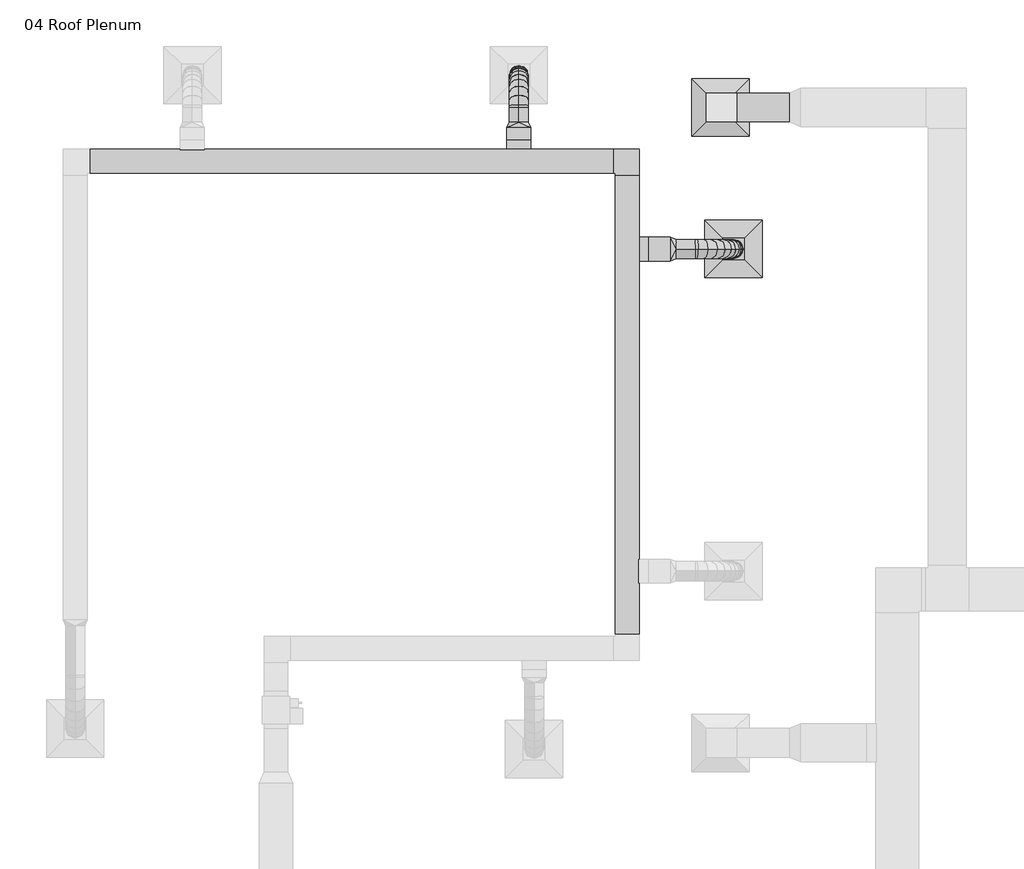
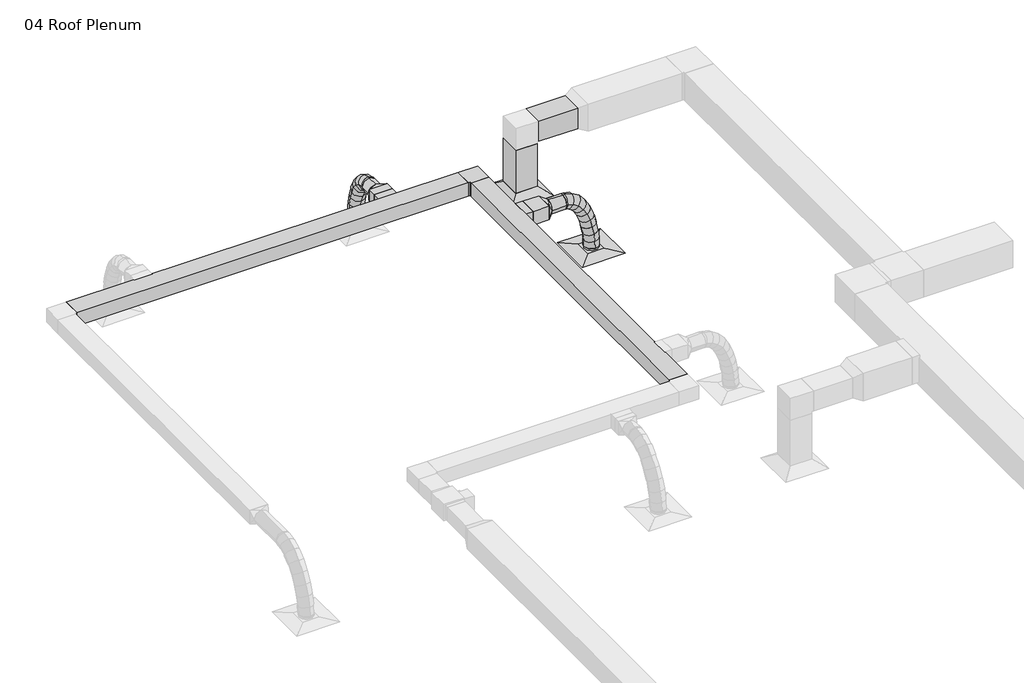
# One storey, part 6 of 9: 10 duct segments, 5 duct fittings, 2 air terminals.
"""IFC4 building model written with IfcOpenShell, lengths in millimetres."""

from ifc_helpers import new_model, si_unit, point, frame, frame_2d, origin, place, context, project, spatial, polyline, circle_curve, ellipse_curve, trimmed, segment, composite_curve, outline, extrude, transform, mapped, element, save
from ifc_brep_helpers import plane_surface, cylinder_surface, advanced_brep
from components import return_diffuser_d30_returndiffuser_24x24_12x12_connection_ff543d60, supply_diffuser_rectangular_face_round_neck_d30_6390248a, rectangular_elbow_mitered_standard_f09b78ec, rectangular_takeoff_standard_c54ab2d1, rectangular_to_round_transition_angle_45_degree_e9430680

model = new_model("IFC4")

# Units and contexts
model_context = context("Model", 3, world=origin())
ifc_project = project(units=[si_unit("LENGTHUNIT", "METRE", prefix="MILLI")], contexts=[model_context])

# Site, building, storey
site = spatial("IfcSite", under=ifc_project)
building = spatial("IfcBuilding", under=site)
storey = spatial("IfcBuildingStorey", under=building, Name="04 Roof Plenum", Elevation=12192.0)

# Air terminals
placement = place(None, origin())
return_diffuser_d30_returndiffuser_24x24_12x12_connection_shape = return_diffuser_d30_returndiffuser_24x24_12x12_connection_ff543d60(model_context)
element("IfcAirTerminal", 1, ObjectType="Return Diffuser : D30_ReturnDiffuser_24x24 12x12 Connection", at=placement, inside=storey, context=model_context, shape_type="MappedRepresentation", body=[
    mapped(return_diffuser_d30_returndiffuser_24x24_12x12_connection_shape, transform((-9849.7375216, 11685.6809317, 12192.0), x_axis=(1.0, 0.0, 0.0), y_axis=(0.0, 1.0, 0.0), z_axis=(0.0, 0.0, 1.0))),
])
supply_diffuser_rectangular_face_round_neck_d30_shape = supply_diffuser_rectangular_face_round_neck_d30_6390248a(model_context)
element("IfcAirTerminal", 2, ObjectType="Supply Diffuser - Rectangular Face Round Neck : D30_SupplyDiffuser_24x24 8 Neck", at=placement, inside=storey, context=model_context, shape_type="MappedRepresentation", body=[
    mapped(supply_diffuser_rectangular_face_round_neck_d30_shape, transform((-9710.4163107, 10179.6737087, 12192.0), x_axis=(1.0, 0.0, 0.0), y_axis=(0.0, 1.0, 0.0), z_axis=(0.0, 0.0, 1.0))),
])

# Duct fittings
rectangular_elbow_mitered_standard_shape = rectangular_elbow_mitered_standard_f09b78ec(model_context)
element("IfcDuctFitting", 3, ObjectType="Rectangular Elbow - Mitered : Standard", at=placement, inside=storey, context=model_context, shape_type="MappedRepresentation", body=[
    mapped(rectangular_elbow_mitered_standard_shape, transform((-10837.7723705, 11113.0921675, 13030.2), x_axis=(0.0, 1.0, 0.0), y_axis=(-1.0, 0.0, 0.0), z_axis=(0.0, 0.0, 1.0))),
])
rectangular_takeoff_standard_shape = rectangular_takeoff_standard_c54ab2d1(model_context)
element("IfcDuctFitting", 4, ObjectType="Rectangular Takeoff : Standard", at=placement, inside=storey, context=model_context, shape_type="MappedRepresentation", body=[
    mapped(rectangular_takeoff_standard_shape, transform((-10710.7723705, 10179.6737087, 13030.2), x_axis=(1.0, 0.0, 0.0), y_axis=(0.0, -1.0, 0.0), z_axis=(0.0, 0.0, -1.0))),
])
element("IfcDuctFitting", 5, ObjectType="Rectangular Takeoff : Standard", at=placement, inside=storey, context=model_context, shape_type="MappedRepresentation", body=[
    mapped(rectangular_takeoff_standard_shape, transform((-11992.0077013, 11240.0921675, 13030.2), x_axis=(0.0, 1.0, 0.0), y_axis=(1.0, 0.0, 0.0), z_axis=(0.0, 0.0, -1.0))),
])
rectangular_to_round_transition_angle_45_degree_shape = rectangular_to_round_transition_angle_45_degree_e9430680(model_context)
element("IfcDuctFitting", 6, ObjectType="Rectangular to Round Transition - Angle : 45 Degree", at=placement, inside=storey, context=model_context, shape_type="MappedRepresentation", body=[
    mapped(rectangular_to_round_transition_angle_45_degree_shape, transform((-10380.5723705, 10179.6737087, 13030.2), x_axis=(1.0, 0.0, 0.0), y_axis=(0.0, 1.0, 0.0), z_axis=(0.0, 0.0, 1.0))),
])
element("IfcDuctFitting", 7, ObjectType="Rectangular to Round Transition - Angle : 45 Degree", at=placement, inside=storey, context=model_context, shape_type="MappedRepresentation", body=[
    mapped(rectangular_to_round_transition_angle_45_degree_shape, transform((-11992.0077013, 11468.6921675, 13030.2), x_axis=(0.0, 1.0, 0.0), y_axis=(-1.0, 0.0, 0.0), z_axis=(0.0, 0.0, 1.0))),
])

# Duct segments
element("IfcDuctSegment", 8, ObjectType="Flex - Round", at=placement, inside=storey, context=model_context, shape_type="AdvancedBrep", body=[
    advanced_brep(
    [(-10116.051346, 10281.2737087, 13030.2), (-10116.051346, 10179.6737087, 12928.6), (-10116.051346, 10078.0737087, 13030.2), (-10116.051346, 10179.6737087, 13131.8), (-10097.2613499, 10281.2737087, 13030.2), (-10109.1301568, 10179.6737087, 12928.6), (-10097.2613499, 10078.0737087, 13030.2), (-10085.392543, 10179.6737087, 13131.8), (-9710.4163107, 10281.2737087, 12245.975), (-9608.8163107, 10179.6737087, 12245.975), (-9710.4163107, 10078.0737087, 12245.975), (-9812.0163107, 10179.6737087, 12245.975), (-10024.6277675, 10281.2737087, 13012.9952525), (-10063.7514042, 10179.6737087, 12917.8511156), (-10024.6277675, 10078.0737087, 13012.9952525), (-9985.5041308, 10179.6737087, 13108.1393895), (-9946.1684467, 10281.2737087, 12965.1424888), (-10011.5801659, 10179.6737087, 12886.0315955), (-9946.1684467, 10078.0737087, 12965.1424888), (-9880.7567276, 10179.6737087, 13044.2533822), (-9880.0836682, 10281.2737087, 12892.2839269), (-9962.3441922, 10179.6737087, 12831.7488648), (-9880.0836682, 10078.0737087, 12892.2839269), (-9797.8231442, 10179.6737087, 12952.818989), (-9825.7837163, 10281.2737087, 12800.0617847), (-9917.0975886, 10179.6737087, 12754.9027798), (-9825.7837163, 10078.0737087, 12800.0617847), (-9734.469844, 10179.6737087, 12845.2207896), (-9782.6788754, 10281.2737087, 12694.1182803), (-9878.8716624, 10179.6737087, 12660.9507203), (-9782.6788754, 10078.0737087, 12694.1182803), (-9686.4860884, 10179.6737087, 12727.2858402), (-9750.17943, 10281.2737087, 12580.0956316), (-9849.0995098, 10179.6737087, 12556.4966397), (-9750.17943, 10078.0737087, 12580.0956316), (-9651.2593501, 10179.6737087, 12603.6946235), (-9727.6956644, 10281.2737087, 12463.6360566), (-9828.1850451, 10179.6737087, 12448.165601), (-9727.6956644, 10078.0737087, 12463.6360566), (-9627.2062838, 10179.6737087, 12479.1065123), (-9714.6378632, 10281.2737087, 12350.3817734), (-9815.9925683, 10179.6737087, 12342.4165399), (-9714.6378632, 10078.0737087, 12350.3817734), (-9613.2831581, 10179.6737087, 12358.347007), (-9710.4163107, 10281.2737087, 12250.0797103), (-9812.0163107, 10179.6737087, 12247.942566), (-9710.4163107, 10078.0737087, 12250.0797103), (-9608.8163107, 10179.6737087, 12252.2168545)],
    [
        (0, 1, circle_curve(frame((-10116.051346, 10179.6737087, 13030.2), z_axis=(-1.0, 0.0, 0.0), x_axis=(0.0, 1.0, 0.0)), 101.6)),
        (1, 2, circle_curve(frame((-10116.051346, 10179.6737087, 13030.2), z_axis=(-1.0, 0.0, 0.0), x_axis=(0.0, 1.0, 0.0)), 101.6)),
        (2, 3, circle_curve(frame((-10116.051346, 10179.6737087, 13030.2), z_axis=(-1.0, 0.0, 0.0), x_axis=(0.0, 1.0, 0.0)), 101.6)),
        (3, 0, circle_curve(frame((-10116.051346, 10179.6737087, 13030.2), z_axis=(-1.0, 0.0, 0.0), x_axis=(0.0, 1.0, 0.0)), 101.6)),
        (0, 4),
        (4, 5, ellipse_curve(frame((-10097.2613499, 10179.6737087, 13030.2), z_axis=(-0.993245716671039, 0.0, 0.11602993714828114), x_axis=(-0.11602993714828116, 0.0, -0.9932457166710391)), 102.2909017, 101.6)),
        (5, 1),
        (5, 6, ellipse_curve(frame((-10097.2613499, 10179.6737087, 13030.2), z_axis=(-0.993245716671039, 0.0, 0.11602993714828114), x_axis=(-0.11602993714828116, 0.0, -0.9932457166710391)), 102.2909017, 101.6)),
        (6, 2),
        (6, 7, ellipse_curve(frame((-10097.2613499, 10179.6737087, 13030.2), z_axis=(-0.993245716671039, 0.0, 0.11602993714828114), x_axis=(-0.11602993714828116, 0.0, -0.9932457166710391)), 102.2909017, 101.6)),
        (7, 3),
        (7, 4, ellipse_curve(frame((-10097.2613499, 10179.6737087, 13030.2), z_axis=(-0.993245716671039, 0.0, 0.11602993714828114), x_axis=(-0.11602993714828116, 0.0, -0.9932457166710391)), 102.2909017, 101.6)),
        (8, 9, circle_curve(frame((-9710.4163107, 10179.6737087, 12245.975), z_axis=(0.0, 0.0, -1.0), x_axis=(0.0, 1.0, 0.0)), 101.6)),
        (9, 10, circle_curve(frame((-9710.4163107, 10179.6737087, 12245.975), z_axis=(0.0, 0.0, -1.0), x_axis=(0.0, 1.0, 0.0)), 101.6)),
        (10, 11, circle_curve(frame((-9710.4163107, 10179.6737087, 12245.975), z_axis=(0.0, 0.0, -1.0), x_axis=(0.0, 1.0, 0.0)), 101.6)),
        (11, 8, circle_curve(frame((-9710.4163107, 10179.6737087, 12245.975), z_axis=(0.0, 0.0, -1.0), x_axis=(0.0, 1.0, 0.0)), 101.6)),
        (4, 12),
        (12, 13, ellipse_curve(frame((-10024.6277675, 10179.6737087, 13012.9952525), z_axis=(-0.9248606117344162, 0.0, 0.38030625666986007), x_axis=(-0.38030625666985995, 0.0, -0.9248606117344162)), 102.8740285, 101.6)),
        (13, 5),
        (13, 14, ellipse_curve(frame((-10024.6277675, 10179.6737087, 13012.9952525), z_axis=(-0.9248606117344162, 0.0, 0.38030625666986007), x_axis=(-0.38030625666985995, 0.0, -0.9248606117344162)), 102.8740285, 101.6)),
        (14, 6),
        (14, 15, ellipse_curve(frame((-10024.6277675, 10179.6737087, 13012.9952525), z_axis=(-0.9248606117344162, 0.0, 0.38030625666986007), x_axis=(-0.38030625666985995, 0.0, -0.9248606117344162)), 102.8740285, 101.6)),
        (15, 7),
        (15, 12, ellipse_curve(frame((-10024.6277675, 10179.6737087, 13012.9952525), z_axis=(-0.9248606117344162, 0.0, 0.38030625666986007), x_axis=(-0.38030625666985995, 0.0, -0.9248606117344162)), 102.8740285, 101.6)),
        (12, 16),
        (16, 17, ellipse_curve(frame((-9946.1684467, 10179.6737087, 12965.1424888), z_axis=(-0.7706783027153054, 0.0, 0.6372244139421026), x_axis=(-0.6372244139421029, 0.0, -0.7706783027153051)), 102.6509934, 101.6)),
        (17, 13),
        (17, 18, ellipse_curve(frame((-9946.1684467, 10179.6737087, 12965.1424888), z_axis=(-0.7706783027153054, 0.0, 0.6372244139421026), x_axis=(-0.6372244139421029, 0.0, -0.7706783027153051)), 102.6509934, 101.6)),
        (18, 14),
        (18, 19, ellipse_curve(frame((-9946.1684467, 10179.6737087, 12965.1424888), z_axis=(-0.7706783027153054, 0.0, 0.6372244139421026), x_axis=(-0.6372244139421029, 0.0, -0.7706783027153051)), 102.6509934, 101.6)),
        (19, 15),
        (19, 16, ellipse_curve(frame((-9946.1684467, 10179.6737087, 12965.1424888), z_axis=(-0.7706783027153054, 0.0, 0.6372244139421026), x_axis=(-0.6372244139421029, 0.0, -0.7706783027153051)), 102.6509934, 101.6)),
        (16, 20),
        (20, 21, ellipse_curve(frame((-9880.0836682, 10179.6737087, 12892.2839269), z_axis=(-0.5927042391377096, 0.0, 0.8054201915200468), x_axis=(-0.8054201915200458, 0.0, -0.5927042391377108)), 102.1336749, 101.6)),
        (21, 17),
        (21, 22, ellipse_curve(frame((-9880.0836682, 10179.6737087, 12892.2839269), z_axis=(-0.5927042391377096, 0.0, 0.8054201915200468), x_axis=(-0.8054201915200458, 0.0, -0.5927042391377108)), 102.1336749, 101.6)),
        (22, 18),
        (22, 23, ellipse_curve(frame((-9880.0836682, 10179.6737087, 12892.2839269), z_axis=(-0.5927042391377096, 0.0, 0.8054201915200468), x_axis=(-0.8054201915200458, 0.0, -0.5927042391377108)), 102.1336749, 101.6)),
        (23, 19),
        (23, 20, ellipse_curve(frame((-9880.0836682, 10179.6737087, 12892.2839269), z_axis=(-0.5927042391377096, 0.0, 0.8054201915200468), x_axis=(-0.8054201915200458, 0.0, -0.5927042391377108)), 102.1336749, 101.6)),
        (20, 24),
        (24, 25, ellipse_curve(frame((-9825.7837163, 10179.6737087, 12800.0617847), z_axis=(-0.4432990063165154, 0.0, 0.8963738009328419), x_axis=(-0.8963738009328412, 0.0, -0.4432990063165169)), 101.8703048, 101.6)),
        (25, 21),
        (25, 26, ellipse_curve(frame((-9825.7837163, 10179.6737087, 12800.0617847), z_axis=(-0.4432990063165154, 0.0, 0.8963738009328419), x_axis=(-0.8963738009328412, 0.0, -0.4432990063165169)), 101.8703048, 101.6)),
        (26, 22),
        (26, 27, ellipse_curve(frame((-9825.7837163, 10179.6737087, 12800.0617847), z_axis=(-0.4432990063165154, 0.0, 0.8963738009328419), x_axis=(-0.8963738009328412, 0.0, -0.4432990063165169)), 101.8703048, 101.6)),
        (27, 23),
        (27, 24, ellipse_curve(frame((-9825.7837163, 10179.6737087, 12800.0617847), z_axis=(-0.4432990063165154, 0.0, 0.8963738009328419), x_axis=(-0.8963738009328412, 0.0, -0.4432990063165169)), 101.8703048, 101.6)),
        (24, 28),
        (28, 29, ellipse_curve(frame((-9782.6788754, 10179.6737087, 12694.1182803), z_axis=(-0.3259698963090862, 0.0, 0.9453801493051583), x_axis=(-0.945380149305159, 0.0, -0.32596989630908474)), 101.7503774, 101.6)),
        (29, 25),
        (29, 30, ellipse_curve(frame((-9782.6788754, 10179.6737087, 12694.1182803), z_axis=(-0.3259698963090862, 0.0, 0.9453801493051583), x_axis=(-0.945380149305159, 0.0, -0.32596989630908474)), 101.7503774, 101.6)),
        (30, 26),
        (30, 31, ellipse_curve(frame((-9782.6788754, 10179.6737087, 12694.1182803), z_axis=(-0.3259698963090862, 0.0, 0.9453801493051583), x_axis=(-0.945380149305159, 0.0, -0.32596989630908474)), 101.7503774, 101.6)),
        (31, 27),
        (31, 28, ellipse_curve(frame((-9782.6788754, 10179.6737087, 12694.1182803), z_axis=(-0.3259698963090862, 0.0, 0.9453801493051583), x_axis=(-0.945380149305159, 0.0, -0.32596989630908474)), 101.7503774, 101.6)),
        (28, 32),
        (32, 33, ellipse_curve(frame((-9750.17943, 10179.6737087, 12580.0956316), z_axis=(-0.23205407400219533, 0.0, 0.9727028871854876), x_axis=(-0.9727028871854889, 0.0, -0.23205407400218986)), 101.6960895, 101.6)),
        (33, 29),
        (33, 34, ellipse_curve(frame((-9750.17943, 10179.6737087, 12580.0956316), z_axis=(-0.23205407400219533, 0.0, 0.9727028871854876), x_axis=(-0.9727028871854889, 0.0, -0.23205407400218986)), 101.6960895, 101.6)),
        (34, 30),
        (34, 35, ellipse_curve(frame((-9750.17943, 10179.6737087, 12580.0956316), z_axis=(-0.23205407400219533, 0.0, 0.9727028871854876), x_axis=(-0.9727028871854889, 0.0, -0.23205407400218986)), 101.6960895, 101.6)),
        (35, 31),
        (35, 32, ellipse_curve(frame((-9750.17943, 10179.6737087, 12580.0956316), z_axis=(-0.23205407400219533, 0.0, 0.9727028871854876), x_axis=(-0.9727028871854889, 0.0, -0.23205407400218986)), 101.6960895, 101.6)),
        (32, 36),
        (36, 37, ellipse_curve(frame((-9727.6956644, 10179.6737087, 12463.6360566), z_axis=(-0.15215855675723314, 0.0, 0.9883560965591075), x_axis=(-0.9883560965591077, 0.0, -0.15215855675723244)), 101.6732542, 101.6)),
        (37, 33),
        (37, 38, ellipse_curve(frame((-9727.6956644, 10179.6737087, 12463.6360566), z_axis=(-0.15215855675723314, 0.0, 0.9883560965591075), x_axis=(-0.9883560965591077, 0.0, -0.15215855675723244)), 101.6732542, 101.6)),
        (38, 34),
        (38, 39, ellipse_curve(frame((-9727.6956644, 10179.6737087, 12463.6360566), z_axis=(-0.15215855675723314, 0.0, 0.9883560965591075), x_axis=(-0.9883560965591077, 0.0, -0.15215855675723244)), 101.6732542, 101.6)),
        (39, 35),
        (39, 36, ellipse_curve(frame((-9727.6956644, 10179.6737087, 12463.6360566), z_axis=(-0.15215855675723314, 0.0, 0.9883560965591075), x_axis=(-0.9883560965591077, 0.0, -0.15215855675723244)), 101.6732542, 101.6)),
        (36, 40),
        (40, 41, ellipse_curve(frame((-9714.6378632, 10179.6737087, 12350.3817734), z_axis=(-0.07834614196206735, 0.0, 0.9969262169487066), x_axis=(-0.9969262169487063, 0.0, -0.0783461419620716)), 101.667208, 101.6)),
        (41, 37),
        (41, 42, ellipse_curve(frame((-9714.6378632, 10179.6737087, 12350.3817734), z_axis=(-0.07834614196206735, 0.0, 0.9969262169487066), x_axis=(-0.9969262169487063, 0.0, -0.0783461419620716)), 101.667208, 101.6)),
        (42, 38),
        (42, 43, ellipse_curve(frame((-9714.6378632, 10179.6737087, 12350.3817734), z_axis=(-0.07834614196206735, 0.0, 0.9969262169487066), x_axis=(-0.9969262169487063, 0.0, -0.0783461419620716)), 101.667208, 101.6)),
        (43, 39),
        (43, 40, ellipse_curve(frame((-9714.6378632, 10179.6737087, 12350.3817734), z_axis=(-0.07834614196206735, 0.0, 0.9969262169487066), x_axis=(-0.9969262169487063, 0.0, -0.0783461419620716)), 101.667208, 101.6)),
        (40, 44),
        (44, 45, ellipse_curve(frame((-9710.4163107, 10179.6737087, 12250.0797103), z_axis=(-0.02103023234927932, 0.0, 0.9997788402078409), x_axis=(-0.9997788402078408, 0.0, -0.02103023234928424)), 101.6224748, 101.6)),
        (45, 41),
        (45, 46, ellipse_curve(frame((-9710.4163107, 10179.6737087, 12250.0797103), z_axis=(-0.02103023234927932, 0.0, 0.9997788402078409), x_axis=(-0.9997788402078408, 0.0, -0.02103023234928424)), 101.6224748, 101.6)),
        (46, 42),
        (46, 47, ellipse_curve(frame((-9710.4163107, 10179.6737087, 12250.0797103), z_axis=(-0.02103023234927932, 0.0, 0.9997788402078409), x_axis=(-0.9997788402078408, 0.0, -0.02103023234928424)), 101.6224748, 101.6)),
        (47, 43),
        (47, 44, ellipse_curve(frame((-9710.4163107, 10179.6737087, 12250.0797103), z_axis=(-0.02103023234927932, 0.0, 0.9997788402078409), x_axis=(-0.9997788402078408, 0.0, -0.02103023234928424)), 101.6224748, 101.6)),
        (44, 8),
        (11, 45),
        (10, 46),
        (9, 47),
    ],
    [
        plane_surface(frame((-10116.051346, 10179.6737087, 12928.6), z_axis=(-1.0, 0.0, 0.0), x_axis=(0.0, 1.0, 0.0))),
        cylinder_surface(frame((-10116.051346, 10179.6737087, 13030.2), z_axis=(-1.0, 0.0, 0.0), x_axis=(0.0, 1.0, 0.0)), 101.6),
        plane_surface(frame((-9710.4163107, 10078.0737087, 12245.975), z_axis=(0.0, 0.0, -1.0), x_axis=(-1.0, 0.0, 0.0))),
        cylinder_surface(frame((-10097.2613499, 10179.6737087, 13030.2), z_axis=(-0.9730741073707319, 0.0, 0.23049247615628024), x_axis=(0.0, 1.0, 0.0)), 101.6),
        cylinder_surface(frame((-10024.6277675, 10179.6737087, 13012.9952525), z_axis=(-0.8537395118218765, 0.0, 0.5207003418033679), x_axis=(0.0, 1.0, 0.0)), 101.6),
        cylinder_surface(frame((-9946.1684467, 10179.6737087, 12965.1424888), z_axis=(-0.6718358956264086, 0.0, 0.7407000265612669), x_axis=(0.0, 1.0, 0.0)), 101.6),
        cylinder_surface(frame((-9880.0836682, 10179.6737087, 12892.2839269), z_axis=(-0.5073785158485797, 0.0, 0.8617232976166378), x_axis=(0.0, 1.0, 0.0)), 101.6),
        cylinder_surface(frame((-9825.7837163, 10179.6737087, 12800.0617847), z_axis=(-0.3768669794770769, 0.0, 0.9262673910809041), x_axis=(0.0, 1.0, 0.0)), 101.6),
        cylinder_surface(frame((-9782.6788754, 10179.6737087, 12694.1182803), z_axis=(-0.27410930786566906, 0.0, 0.9616985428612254), x_axis=(0.0, 1.0, 0.0)), 101.6),
        cylinder_surface(frame((-9750.17943, 10179.6737087, 12580.0956316), z_axis=(-0.18956031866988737, 0.0, 0.9818690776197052), x_axis=(0.0, 1.0, 0.0)), 101.6),
        cylinder_surface(frame((-9727.6956644, 10179.6737087, 12463.6360566), z_axis=(-0.11453753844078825, 0.0, 0.993418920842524), x_axis=(0.0, 1.0, 0.0)), 101.6),
        cylinder_surface(frame((-9714.6378632, 10179.6737087, 12350.3817734), z_axis=(-0.042051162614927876, 0.0, 0.9991154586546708), x_axis=(0.0, 1.0, 0.0)), 101.6),
        cylinder_surface(frame((-9710.4163107, 10179.6737087, 12250.0797103), z_axis=(0.0, 0.0, 1.0), x_axis=(0.0, 1.0, 0.0)), 101.6),
    ],
    [
        (0, [[1, 2, 3, 4]]),
        (1, [[-1, 5, 6, 7]]),
        (1, [[-2, -7, 8, 9]]),
        (1, [[-3, -9, 10, 11]]),
        (1, [[-4, -11, 12, -5]]),
        (2, [[13, 14, 15, 16]]),
        (3, [[-6, 17, 18, 19]]),
        (3, [[-8, -19, 20, 21]]),
        (3, [[-10, -21, 22, 23]]),
        (3, [[-12, -23, 24, -17]]),
        (4, [[-18, 25, 26, 27]]),
        (4, [[-20, -27, 28, 29]]),
        (4, [[-22, -29, 30, 31]]),
        (4, [[-24, -31, 32, -25]]),
        (5, [[-26, 33, 34, 35]]),
        (5, [[-28, -35, 36, 37]]),
        (5, [[-30, -37, 38, 39]]),
        (5, [[-32, -39, 40, -33]]),
        (6, [[-34, 41, 42, 43]]),
        (6, [[-36, -43, 44, 45]]),
        (6, [[-38, -45, 46, 47]]),
        (6, [[-40, -47, 48, -41]]),
        (7, [[-42, 49, 50, 51]]),
        (7, [[-44, -51, 52, 53]]),
        (7, [[-46, -53, 54, 55]]),
        (7, [[-48, -55, 56, -49]]),
        (8, [[-50, 57, 58, 59]]),
        (8, [[-52, -59, 60, 61]]),
        (8, [[-54, -61, 62, 63]]),
        (8, [[-56, -63, 64, -57]]),
        (9, [[-58, 65, 66, 67]]),
        (9, [[-60, -67, 68, 69]]),
        (9, [[-62, -69, 70, 71]]),
        (9, [[-64, -71, 72, -65]]),
        (10, [[-66, 73, 74, 75]]),
        (10, [[-68, -75, 76, 77]]),
        (10, [[-70, -77, 78, 79]]),
        (10, [[-72, -79, 80, -73]]),
        (11, [[-74, 81, 82, 83]]),
        (11, [[-76, -83, 84, 85]]),
        (11, [[-78, -85, 86, 87]]),
        (11, [[-80, -87, 88, -81]]),
        (12, [[-82, 89, -16, 90]]),
        (12, [[-84, -90, -15, 91]]),
        (12, [[-86, -91, -14, 92]]),
        (12, [[-88, -92, -13, -89]]),
    ],
),
])
element("IfcDuctSegment", 9, ObjectType="Flex - Round", at=placement, inside=storey, context=model_context, shape_type="AdvancedBrep", body=[
    advanced_brep(
    [(-12093.6077013, 11682.413192, 13030.2), (-11992.0077013, 11682.413192, 12928.6), (-11890.4077013, 11682.413192, 13030.2), (-11992.0077013, 11682.413192, 13131.8), (-12093.6077013, 11702.4276389, 13030.2), (-11992.0077013, 11689.3912338, 12928.6), (-11890.4077013, 11702.4276389, 13030.2), (-11992.0077013, 11715.464044, 13131.8), (-12093.6077013, 12027.4921675, 12245.975), (-11992.0077013, 12129.0633727, 12248.3937348), (-11890.4077013, 12027.4921675, 12245.975), (-11992.0077013, 11925.9209623, 12243.5562652), (-12093.6077013, 11769.4660126, 13012.7084931), (-11992.0077013, 11726.9233762, 12918.8071949), (-11890.4077013, 11769.4660126, 13012.7084931), (-11992.0077013, 11812.008649, 13106.6097913), (-12093.6077013, 11841.1410968, 12964.1388308), (-11992.0077013, 11770.923806, 12888.990892), (-11890.4077013, 11841.1410968, 12964.1388308), (-11992.0077013, 11911.3583875, 13039.2867696), (-12093.6077013, 11898.8098982, 12890.3483007), (-11992.0077013, 11812.0668866, 12836.3459671), (-11890.4077013, 11898.8098982, 12890.3483007), (-11992.0077013, 11985.5529098, 12944.3506344), (-12093.6077013, 11943.8438704, 12797.1941904), (-11992.0077013, 11849.1898623, 12759.555988), (-11890.4077013, 11943.8438704, 12797.1941904), (-11992.0077013, 12038.4978784, 12834.8323928), (-12093.6077013, 11977.6144668, 12690.5337874), (-11992.0077013, 11879.208129, 12664.7468712), (-11890.4077013, 11977.6144668, 12690.5337874), (-11992.0077013, 12076.0208046, 12716.3207035), (-12093.6077013, 12001.4931412, 12576.2243792), (-11992.0077013, 11901.2665537, 12559.151166), (-11890.4077013, 12001.4931412, 12576.2243792), (-11992.0077013, 12101.7197288, 12593.2975925), (-12093.6077013, 12016.8513471, 12460.1232536), (-11992.0077013, 11915.739772, 12449.740148), (-11890.4077013, 12016.8513471, 12460.1232536), (-11992.0077013, 12117.9629222, 12470.5063592), (-12093.6077013, 12025.060538, 12348.087698), (-11992.0077013, 11923.5490074, 12343.1630143), (-11890.4077013, 12025.060538, 12348.087698), (-11992.0077013, 12126.5720685, 12353.0123817)],
    [
        (0, 1, circle_curve(frame((-11992.0077013, 11682.413192, 13030.2), z_axis=(0.0, -1.0, 0.0), x_axis=(-1.0, 0.0, 0.0)), 101.6)),
        (1, 2, circle_curve(frame((-11992.0077013, 11682.413192, 13030.2), z_axis=(0.0, -1.0, 0.0), x_axis=(-1.0, 0.0, 0.0)), 101.6)),
        (2, 3, circle_curve(frame((-11992.0077013, 11682.413192, 13030.2), z_axis=(0.0, -1.0, 0.0), x_axis=(-1.0, 0.0, 0.0)), 101.6)),
        (3, 0, circle_curve(frame((-11992.0077013, 11682.413192, 13030.2), z_axis=(0.0, -1.0, 0.0), x_axis=(-1.0, 0.0, 0.0)), 101.6)),
        (0, 4),
        (4, 5, ellipse_curve(frame((-11992.0077013, 11702.4276389, 13030.2), z_axis=(0.0, -0.9918684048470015, 0.1272677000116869), x_axis=(0.0, -0.12726770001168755, -0.9918684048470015)), 102.4329432, 101.6)),
        (5, 1),
        (5, 6, ellipse_curve(frame((-11992.0077013, 11702.4276389, 13030.2), z_axis=(0.0, -0.9918684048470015, 0.1272677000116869), x_axis=(0.0, -0.12726770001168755, -0.9918684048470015)), 102.4329432, 101.6)),
        (6, 2),
        (6, 7, ellipse_curve(frame((-11992.0077013, 11702.4276389, 13030.2), z_axis=(0.0, -0.9918684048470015, 0.1272677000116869), x_axis=(0.0, -0.12726770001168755, -0.9918684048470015)), 102.4329432, 101.6)),
        (7, 3),
        (7, 4, ellipse_curve(frame((-11992.0077013, 11702.4276389, 13030.2), z_axis=(0.0, -0.9918684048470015, 0.1272677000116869), x_axis=(0.0, -0.12726770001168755, -0.9918684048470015)), 102.4329432, 101.6)),
        (8, 9, circle_curve(frame((-11992.0077013, 12027.4921675, 12245.975), z_axis=(0.0, 0.023806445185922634, -0.9997165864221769), x_axis=(-1.0, 0.0, 0.0)), 101.6)),
        (9, 10, circle_curve(frame((-11992.0077013, 12027.4921675, 12245.975), z_axis=(0.0, 0.023806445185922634, -0.9997165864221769), x_axis=(-1.0, 0.0, 0.0)), 101.6)),
        (10, 11, circle_curve(frame((-11992.0077013, 12027.4921675, 12245.975), z_axis=(0.0, 0.023806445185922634, -0.9997165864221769), x_axis=(-1.0, 0.0, 0.0)), 101.6)),
        (11, 8, circle_curve(frame((-11992.0077013, 12027.4921675, 12245.975), z_axis=(0.0, 0.023806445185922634, -0.9997165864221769), x_axis=(-1.0, 0.0, 0.0)), 101.6)),
        (4, 12),
        (12, 13, ellipse_curve(frame((-11992.0077013, 11769.4660126, 13012.7084931), z_axis=(0.0, -0.910876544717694, 0.4126789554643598), x_axis=(0.0, -0.41267895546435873, -0.9108765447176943)), 103.0889408, 101.6)),
        (13, 5),
        (13, 14, ellipse_curve(frame((-11992.0077013, 11769.4660126, 13012.7084931), z_axis=(0.0, -0.910876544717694, 0.4126789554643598), x_axis=(0.0, -0.41267895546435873, -0.9108765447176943)), 103.0889408, 101.6)),
        (14, 6),
        (14, 15, ellipse_curve(frame((-11992.0077013, 11769.4660126, 13012.7084931), z_axis=(0.0, -0.910876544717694, 0.4126789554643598), x_axis=(0.0, -0.41267895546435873, -0.9108765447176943)), 103.0889408, 101.6)),
        (15, 7),
        (15, 12, ellipse_curve(frame((-11992.0077013, 11769.4660126, 13012.7084931), z_axis=(0.0, -0.910876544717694, 0.4126789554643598), x_axis=(0.0, -0.41267895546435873, -0.9108765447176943)), 103.0889408, 101.6)),
        (12, 16),
        (16, 17, ellipse_curve(frame((-11992.0077013, 11841.1410968, 12964.1388308), z_axis=(0.0, -0.7306709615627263, 0.6827297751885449), x_axis=(0.0, -0.6827297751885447, -0.7306709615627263)), 102.8478518, 101.6)),
        (17, 13),
        (17, 18, ellipse_curve(frame((-11992.0077013, 11841.1410968, 12964.1388308), z_axis=(0.0, -0.7306709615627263, 0.6827297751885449), x_axis=(0.0, -0.6827297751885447, -0.7306709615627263)), 102.8478518, 101.6)),
        (18, 14),
        (18, 19, ellipse_curve(frame((-11992.0077013, 11841.1410968, 12964.1388308), z_axis=(0.0, -0.7306709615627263, 0.6827297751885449), x_axis=(0.0, -0.6827297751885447, -0.7306709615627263)), 102.8478518, 101.6)),
        (19, 15),
        (19, 16, ellipse_curve(frame((-11992.0077013, 11841.1410968, 12964.1388308), z_axis=(0.0, -0.7306709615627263, 0.6827297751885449), x_axis=(0.0, -0.6827297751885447, -0.7306709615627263)), 102.8478518, 101.6)),
        (16, 20),
        (20, 21, ellipse_curve(frame((-11992.0077013, 11898.8098982, 12890.3483007), z_axis=(0.0, -0.5285057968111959, 0.8489296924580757), x_axis=(0.0, -0.8489296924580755, -0.5285057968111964)), 102.1792646, 101.6)),
        (21, 17),
        (21, 22, ellipse_curve(frame((-11992.0077013, 11898.8098982, 12890.3483007), z_axis=(0.0, -0.5285057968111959, 0.8489296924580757), x_axis=(0.0, -0.8489296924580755, -0.5285057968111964)), 102.1792646, 101.6)),
        (22, 18),
        (22, 23, ellipse_curve(frame((-11992.0077013, 11898.8098982, 12890.3483007), z_axis=(0.0, -0.5285057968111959, 0.8489296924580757), x_axis=(0.0, -0.8489296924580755, -0.5285057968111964)), 102.1792646, 101.6)),
        (23, 19),
        (23, 20, ellipse_curve(frame((-11992.0077013, 11898.8098982, 12890.3483007), z_axis=(0.0, -0.5285057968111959, 0.8489296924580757), x_axis=(0.0, -0.8489296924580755, -0.5285057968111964)), 102.1792646, 101.6)),
        (20, 24),
        (24, 25, ellipse_curve(frame((-11992.0077013, 11943.8438704, 12797.1941904), z_axis=(0.0, -0.3694992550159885, 0.9292310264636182), x_axis=(0.0, -0.9292310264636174, -0.3694992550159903)), 101.8627288, 101.6)),
        (25, 21),
        (25, 26, ellipse_curve(frame((-11992.0077013, 11943.8438704, 12797.1941904), z_axis=(0.0, -0.3694992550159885, 0.9292310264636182), x_axis=(0.0, -0.9292310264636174, -0.3694992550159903)), 101.8627288, 101.6)),
        (26, 22),
        (26, 27, ellipse_curve(frame((-11992.0077013, 11943.8438704, 12797.1941904), z_axis=(0.0, -0.3694992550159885, 0.9292310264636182), x_axis=(0.0, -0.9292310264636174, -0.3694992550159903)), 101.8627288, 101.6)),
        (27, 23),
        (27, 24, ellipse_curve(frame((-11992.0077013, 11943.8438704, 12797.1941904), z_axis=(0.0, -0.3694992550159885, 0.9292310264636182), x_axis=(0.0, -0.9292310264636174, -0.3694992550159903)), 101.8627288, 101.6)),
        (24, 28),
        (28, 29, ellipse_curve(frame((-11992.0077013, 11977.6144668, 12690.5337874), z_axis=(0.0, -0.2534865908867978, 0.9673389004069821), x_axis=(0.0, -0.9673389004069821, -0.2534865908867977)), 101.7289161, 101.6)),
        (29, 25),
        (29, 30, ellipse_curve(frame((-11992.0077013, 11977.6144668, 12690.5337874), z_axis=(0.0, -0.2534865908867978, 0.9673389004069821), x_axis=(0.0, -0.9673389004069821, -0.2534865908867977)), 101.7289161, 101.6)),
        (30, 26),
        (30, 31, ellipse_curve(frame((-11992.0077013, 11977.6144668, 12690.5337874), z_axis=(0.0, -0.2534865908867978, 0.9673389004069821), x_axis=(0.0, -0.9673389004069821, -0.2534865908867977)), 101.7289161, 101.6)),
        (31, 27),
        (31, 28, ellipse_curve(frame((-11992.0077013, 11977.6144668, 12690.5337874), z_axis=(0.0, -0.2534865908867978, 0.9673389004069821), x_axis=(0.0, -0.9673389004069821, -0.2534865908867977)), 101.7289161, 101.6)),
        (28, 32),
        (32, 33, ellipse_curve(frame((-11992.0077013, 12001.4931412, 12576.2243792), z_axis=(0.0, -0.16792713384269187, 0.9857994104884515), x_axis=(0.0, -0.9857994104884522, -0.16792713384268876)), 101.6703667, 101.6)),
        (33, 29),
        (33, 34, ellipse_curve(frame((-11992.0077013, 12001.4931412, 12576.2243792), z_axis=(0.0, -0.16792713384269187, 0.9857994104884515), x_axis=(0.0, -0.9857994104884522, -0.16792713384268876)), 101.6703667, 101.6)),
        (34, 30),
        (34, 35, ellipse_curve(frame((-11992.0077013, 12001.4931412, 12576.2243792), z_axis=(0.0, -0.16792713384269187, 0.9857994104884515), x_axis=(0.0, -0.9857994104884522, -0.16792713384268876)), 101.6703667, 101.6)),
        (35, 31),
        (35, 32, ellipse_curve(frame((-11992.0077013, 12001.4931412, 12576.2243792), z_axis=(0.0, -0.16792713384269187, 0.9857994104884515), x_axis=(0.0, -0.9857994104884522, -0.16792713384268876)), 101.6703667, 101.6)),
        (32, 36),
        (36, 37, ellipse_curve(frame((-11992.0077013, 12016.8513471, 12460.1232536), z_axis=(0.0, -0.102152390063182, 0.9947687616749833), x_axis=(0.0, -0.9947687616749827, -0.10215239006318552)), 101.6432954, 101.6)),
        (37, 33),
        (37, 38, ellipse_curve(frame((-11992.0077013, 12016.8513471, 12460.1232536), z_axis=(0.0, -0.102152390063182, 0.9947687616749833), x_axis=(0.0, -0.9947687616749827, -0.10215239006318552)), 101.6432954, 101.6)),
        (38, 34),
        (38, 39, ellipse_curve(frame((-11992.0077013, 12016.8513471, 12460.1232536), z_axis=(0.0, -0.102152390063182, 0.9947687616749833), x_axis=(0.0, -0.9947687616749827, -0.10215239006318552)), 101.6432954, 101.6)),
        (39, 35),
        (39, 36, ellipse_curve(frame((-11992.0077013, 12016.8513471, 12460.1232536), z_axis=(0.0, -0.102152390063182, 0.9947687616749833), x_axis=(0.0, -0.9947687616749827, -0.10215239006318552)), 101.6432954, 101.6)),
        (36, 40),
        (40, 41, ellipse_curve(frame((-11992.0077013, 12025.060538, 12348.087698), z_axis=(0.0, -0.04845655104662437, 0.9988252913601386), x_axis=(0.0, -0.9988252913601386, -0.048456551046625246)), 101.6309172, 101.6)),
        (41, 37),
        (41, 42, ellipse_curve(frame((-11992.0077013, 12025.060538, 12348.087698), z_axis=(0.0, -0.04845655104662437, 0.9988252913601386), x_axis=(0.0, -0.9988252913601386, -0.048456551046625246)), 101.6309172, 101.6)),
        (42, 38),
        (42, 43, ellipse_curve(frame((-11992.0077013, 12025.060538, 12348.087698), z_axis=(0.0, -0.04845655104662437, 0.9988252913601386), x_axis=(0.0, -0.9988252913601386, -0.048456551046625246)), 101.6309172, 101.6)),
        (43, 39),
        (43, 40, ellipse_curve(frame((-11992.0077013, 12025.060538, 12348.087698), z_axis=(0.0, -0.04845655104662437, 0.9988252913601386), x_axis=(0.0, -0.9988252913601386, -0.048456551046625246)), 101.6309172, 101.6)),
        (40, 8),
        (11, 41),
        (10, 42),
        (9, 43),
    ],
    [
        plane_surface(frame((-12093.6077013, 11682.413192, 13030.2), z_axis=(0.0, -1.0, 0.0), x_axis=(0.0, 0.0, 1.0))),
        cylinder_surface(frame((-11992.0077013, 11682.413192, 13030.2), z_axis=(0.0, -1.0, 0.0), x_axis=(-1.0, 0.0, 0.0)), 101.6),
        plane_surface(frame((-11992.0077013, 12129.0633727, 12248.3937348), z_axis=(0.0, 0.02380644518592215, -0.9997165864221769), x_axis=(1.0, 0.0, 0.0))),
        cylinder_surface(frame((-11992.0077013, 11702.4276389, 13030.2), z_axis=(0.0, -0.9676058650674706, 0.25246562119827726), x_axis=(-1.0, 0.0, 0.0)), 101.6),
        cylinder_surface(frame((-11992.0077013, 11769.4660126, 13012.7084931), z_axis=(0.0, -0.8278351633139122, 0.5609714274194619), x_axis=(-1.0, 0.0, 0.0)), 101.6),
        cylinder_surface(frame((-11992.0077013, 11841.1410968, 12964.1388308), z_axis=(0.0, -0.6157763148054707, 0.7879210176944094), x_axis=(-1.0, 0.0, 0.0)), 101.6),
        cylinder_surface(frame((-11992.0077013, 11898.8098982, 12890.3483007), z_axis=(0.0, -0.4352429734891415, 0.9003130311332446), x_axis=(-1.0, 0.0, 0.0)), 101.6),
        cylinder_surface(frame((-11992.0077013, 11943.8438704, 12797.1941904), z_axis=(0.0, -0.30184947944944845, 0.9533555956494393), x_axis=(-1.0, 0.0, 0.0)), 101.6),
        cylinder_surface(frame((-11992.0077013, 11977.6144668, 12690.5337874), z_axis=(0.0, -0.20448124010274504, 0.9788704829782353), x_axis=(-1.0, 0.0, 0.0)), 101.6),
        cylinder_surface(frame((-11992.0077013, 12001.4931412, 12576.2243792), z_axis=(0.0, -0.13114058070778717, 0.9913637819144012), x_axis=(-1.0, 0.0, 0.0)), 101.6),
        cylinder_surface(frame((-11992.0077013, 12016.8513471, 12460.1232536), z_axis=(0.0, -0.07307717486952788, 0.9973262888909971), x_axis=(-1.0, 0.0, 0.0)), 101.6),
        cylinder_surface(frame((-11992.0077013, 12025.060538, 12348.087698), z_axis=(0.0, -0.023806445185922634, 0.9997165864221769), x_axis=(-1.0, 0.0, 0.0)), 101.6),
    ],
    [
        (0, [[1, 2, 3, 4]]),
        (1, [[-1, 5, 6, 7]]),
        (1, [[-2, -7, 8, 9]]),
        (1, [[-3, -9, 10, 11]]),
        (1, [[-4, -11, 12, -5]]),
        (2, [[13, 14, 15, 16]]),
        (3, [[-6, 17, 18, 19]]),
        (3, [[-8, -19, 20, 21]]),
        (3, [[-10, -21, 22, 23]]),
        (3, [[-12, -23, 24, -17]]),
        (4, [[-18, 25, 26, 27]]),
        (4, [[-20, -27, 28, 29]]),
        (4, [[-22, -29, 30, 31]]),
        (4, [[-24, -31, 32, -25]]),
        (5, [[-26, 33, 34, 35]]),
        (5, [[-28, -35, 36, 37]]),
        (5, [[-30, -37, 38, 39]]),
        (5, [[-32, -39, 40, -33]]),
        (6, [[-34, 41, 42, 43]]),
        (6, [[-36, -43, 44, 45]]),
        (6, [[-38, -45, 46, 47]]),
        (6, [[-40, -47, 48, -41]]),
        (7, [[-42, 49, 50, 51]]),
        (7, [[-44, -51, 52, 53]]),
        (7, [[-46, -53, 54, 55]]),
        (7, [[-48, -55, 56, -49]]),
        (8, [[-50, 57, 58, 59]]),
        (8, [[-52, -59, 60, 61]]),
        (8, [[-54, -61, 62, 63]]),
        (8, [[-56, -63, 64, -57]]),
        (9, [[-58, 65, 66, 67]]),
        (9, [[-60, -67, 68, 69]]),
        (9, [[-62, -69, 70, 71]]),
        (9, [[-64, -71, 72, -65]]),
        (10, [[-66, 73, 74, 75]]),
        (10, [[-68, -75, 76, 77]]),
        (10, [[-70, -77, 78, 79]]),
        (10, [[-72, -79, 80, -73]]),
        (11, [[-74, 81, -16, 82]]),
        (11, [[-76, -82, -15, 83]]),
        (11, [[-78, -83, -14, 84]]),
        (11, [[-80, -84, -13, -81]]),
    ],
),
])
element("IfcDuctSegment", 10, ObjectType="Mitered Elbows / Taps", at=placement, inside=storey, context=model_context, shape_type="SweptSolid", body=[
    extrude(outline(polyline([(-10609.1723705, 10052.6737087), (-10609.1723705, 10306.6737087), (-10380.5723705, 10306.6737087), (-10380.5723705, 10052.6737087), (-10609.1723705, 10052.6737087)])), frame((0.0, 0.0, 12928.6), z_axis=(0.0, 0.0, 1.0), x_axis=(1.0, 0.0, 0.0)), (0.0, 0.0, 1.0), 203.2),
])
element("IfcDuctSegment", 11, ObjectType="Mitered Elbows / Taps", at=placement, inside=storey, context=model_context, shape_type="SweptSolid", body=[
    extrude(outline(polyline([(-11865.0077013, 11341.6921675), (-12119.0077013, 11341.6921675), (-12119.0077013, 11468.6921675), (-11865.0077013, 11468.6921675), (-11865.0077013, 11341.6921675)])), frame((0.0, 0.0, 12928.6), z_axis=(0.0, 0.0, 1.0), x_axis=(1.0, 0.0, 0.0)), (0.0, 0.0, 1.0), 203.2),
])
element("IfcDuctSegment", 12, ObjectType="Mitered Elbows / Taps", at=placement, inside=storey, context=model_context, shape_type="SweptSolid", body=[
    extrude(outline(polyline([(-9118.7297351, 11838.0809317), (-9118.7297351, 11533.2809317), (-9671.9375216, 11533.2809317), (-9671.9375216, 11838.0809317), (-9118.7297351, 11838.0809317)])), frame((0.0, 0.0, 12960.35), z_axis=(0.0, 0.0, 1.0), x_axis=(1.0, 0.0, 0.0)), (0.0, 0.0, 1.0), 304.8),
])
element("IfcDuctSegment", 13, ObjectType="Mitered Elbows / Taps", at=placement, inside=storey, context=model_context, shape_type="SweptSolid", body=[
    extrude(outline(polyline([(-9697.3375216, 11533.2809317), (-10002.1375216, 11533.2809317), (-10002.1375216, 11838.0809317), (-9697.3375216, 11838.0809317), (-9697.3375216, 11533.2809317)])), frame((0.0, 0.0, 12293.6), z_axis=(0.0, 0.0, 1.0), x_axis=(1.0, 0.0, 0.0)), (0.0, 0.0, 1.0), 641.35),
])
element("IfcDuctSegment", 14, ObjectType="Mitered Elbows / Tees", at=placement, inside=storey, context=model_context, shape_type="SweptSolid", body=[
    extrude(outline(polyline([(-10710.7723705, 6083.8921675), (-10964.7723705, 6083.8921675), (-10964.7723705, 10960.6921675), (-10710.7723705, 10960.6921675), (-10710.7723705, 6083.8921675)])), frame((0.0, 0.0, 12928.6), z_axis=(0.0, 0.0, 1.0), x_axis=(1.0, 0.0, 0.0)), (0.0, 0.0, 1.0), 203.2),
])
element("IfcDuctSegment", 15, ObjectType="Mitered Elbows / Tees", at=placement, inside=storey, context=model_context, shape_type="SweptSolid", body=[
    extrude(outline(polyline([(-10990.1723705, 11240.0921675), (-10990.1723705, 10986.0921675), (-16552.7723705, 10986.0921675), (-16552.7723705, 11240.0921675), (-10990.1723705, 11240.0921675)])), frame((0.0, 0.0, 12928.6), z_axis=(0.0, 0.0, 1.0), x_axis=(1.0, 0.0, 0.0)), (0.0, 0.0, 1.0), 203.2),
])
element("IfcDuctSegment", 16, ObjectType="Taps", at=placement, inside=storey, context=model_context, shape_type="SweptSolid", body=[
    extrude(outline(composite_curve([segment(trimmed(circle_curve(frame_2d((10179.6737087, 13030.2)), 101.6), [point((10078.0737087, 13030.2))], [point((10179.6737087, 13131.8))], False, "CARTESIAN"), True, "CONTINUOUS"), segment(trimmed(circle_curve(frame_2d((10179.6737087, 13030.2)), 101.6), [point((10179.6737087, 13131.8))], [point((10281.2737087, 13030.2))], False, "CARTESIAN"), True, "CONTINUOUS"), segment(trimmed(circle_curve(frame_2d((10179.6737087, 13030.2)), 101.6), [point((10281.2737087, 13030.2))], [point((10179.6737087, 12928.6))], False, "CARTESIAN"), True, "CONTINUOUS"), segment(trimmed(circle_curve(frame_2d((10179.6737087, 13030.2)), 101.6), [point((10179.6737087, 12928.6))], [point((10078.0737087, 13030.2))], False, "CARTESIAN"), True, "CONTINUOUS")], self_intersect=False)), frame((-10319.251346, 0.0, 0.0), z_axis=(1.0, 0.0, 0.0), x_axis=(0.0, 1.0, 0.0)), (0.0, 0.0, 1.0), 203.2),
])
element("IfcDuctSegment", 17, ObjectType="Taps", at=placement, inside=storey, context=model_context, shape_type="SweptSolid", body=[
    extrude(outline(composite_curve([segment(trimmed(circle_curve(frame_2d((13030.2, -11992.0077013)), 101.6), [point((13030.2, -11890.4077013))], [point((13131.8, -11992.0077013))], False, "CARTESIAN"), True, "CONTINUOUS"), segment(trimmed(circle_curve(frame_2d((13030.2, -11992.0077013)), 101.6), [point((13131.8, -11992.0077013))], [point((13030.2, -12093.6077013))], False, "CARTESIAN"), True, "CONTINUOUS"), segment(trimmed(circle_curve(frame_2d((13030.2, -11992.0077013)), 101.6), [point((13030.2, -12093.6077013))], [point((12928.6, -11992.0077013))], False, "CARTESIAN"), True, "CONTINUOUS"), segment(trimmed(circle_curve(frame_2d((13030.2, -11992.0077013)), 101.6), [point((12928.6, -11992.0077013))], [point((13030.2, -11890.4077013))], False, "CARTESIAN"), True, "CONTINUOUS")], self_intersect=False)), frame((0.0, 11530.013192, 0.0), z_axis=(0.0, 1.0, 0.0), x_axis=(0.0, 0.0, 1.0)), (0.0, 0.0, 1.0), 152.4),
])

save(model, "model.ifc")
